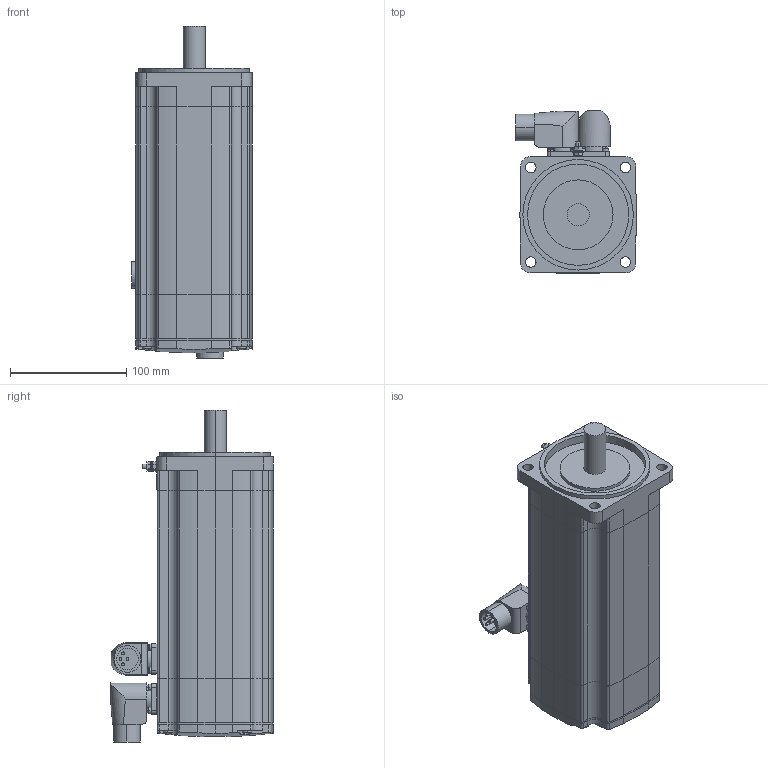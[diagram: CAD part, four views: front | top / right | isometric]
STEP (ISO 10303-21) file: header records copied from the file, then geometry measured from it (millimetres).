
FILE_DESCRIPTION (( 'STEP AP214' ), '1' );
FILE_NAME ('SH31003x0xA2100.STEP', '2013-11-29T09:09:30', ( 'Windows User' ), ( 'Schneider-Electric' ), 'SwSTEP 2.0', 'SolidWorks 2010', '' );
FILE_SCHEMA (( 'AUTOMOTIVE_DESIGN' ));
Length unit declared in the file: millimetre
Products named in the file (9): 1-100005292_DECKEL SH3-100X-X_VM0_Deckel SH3-100x; 1-100010978_K-FLACHDICHTUNG BMH-MH3-100_000; 1-100008869_LAGERSCHILD-SH3-100X-A_VM0_Lagerschild-SH3-100x-A; 1-100010762_GEHÄUSE SH3100X_VM0_Gehäuse SH3-1003-A und F; 1-100010770_K-Flansch SH3-100X_VM0_Flansch SH3-1003 mit Welle ohne Passfeder; 1-100011011_K-ERDUNGSBOLZEN M4_000; K-POWER-CONINVERS-ABGEWIN_POWER-CONINVERS-ABGEWINKELT_000_ohne Bremse; K-ENCODER-CONINVERS-ABGEW_ENCODER-CONINVERS-ABGEWINKELT_000_Single- MultiTurn; SH31003x0xA2100
Assembly tree (8 placements, depth 2):
  SH31003x0xA2100
    1-100010978_K-FLACHDICHTUNG BMH-MH3-100_000
    1-100005292_DECKEL SH3-100X-X_VM0_Deckel SH3-100x
    1-100008869_LAGERSCHILD-SH3-100X-A_VM0_Lagerschild-SH3-100x-A
    1-100010762_GEHÄUSE SH3100X_VM0_Gehäuse SH3-1003-A und F
    1-100010770_K-Flansch SH3-100X_VM0_Flansch SH3-1003 mit Welle ohne Passfeder
    1-100011011_K-ERDUNGSBOLZEN M4_000
    K-POWER-CONINVERS-ABGEWIN_POWER-CONINVERS-ABGEWINKELT_000_ohne Bremse
    K-ENCODER-CONINVERS-ABGEW_ENCODER-CONINVERS-ABGEWINKELT_000_Single- MultiTurn
Bounding box: 103.65 x 139.9 x 285.45 mm (x, y, z)
Volume: 2153680.4 mm3; surface area: 200823.1 mm2
Topology: 8 solids, 8 shells, 468 faces, 1169 edges, 766 vertices
Faces by surface type: cylinder 241, plane 203, torus 16, sphere 4, bspline 4
Entity records: 15598 total; most frequent: CARTESIAN_POINT 3628, DIRECTION 2598, ORIENTED_EDGE 2338, EDGE_CURVE 1169, AXIS2_PLACEMENT_3D 1004, VERTEX_POINT 766, LINE 590, VECTOR 590
